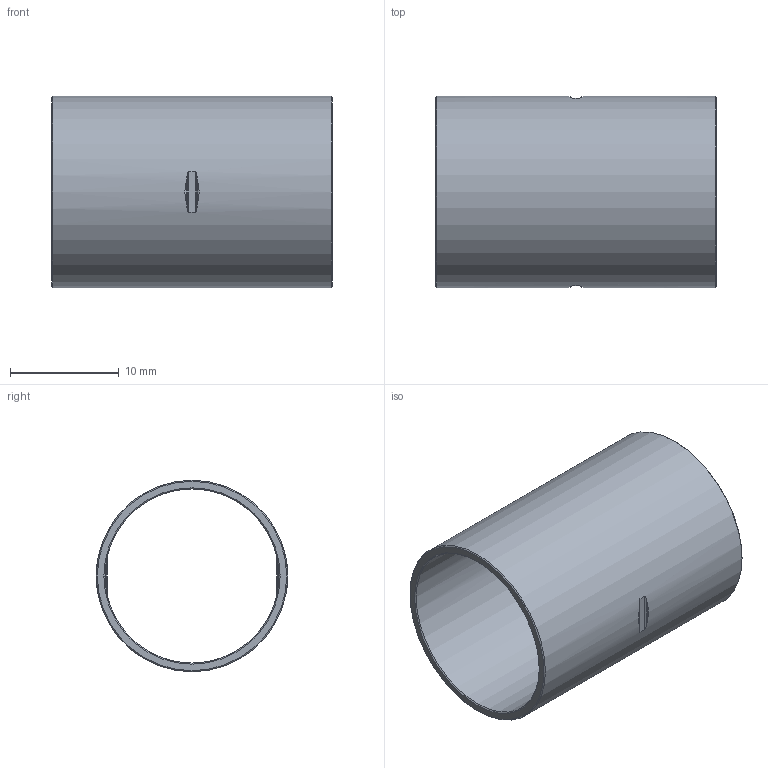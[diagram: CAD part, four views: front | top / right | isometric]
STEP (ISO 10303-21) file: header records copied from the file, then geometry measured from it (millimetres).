
FILE_DESCRIPTION((''),'2;1');
FILE_NAME('G:\SANHA-TERNAT\Technik\Management\Bouwmaten\z-maattekeningen 3D\imate 5000s\15270..._\1527016.stp','2009-10-19T09:09:43',('vdvijverd'),(''),'Autodesk Inventor 2009','Autodesk Inventor 2009','');
FILE_SCHEMA(('AUTOMOTIVE_DESIGN { 1 0 10303 214 1 1 1 1 }'));
Length unit declared in the file: millimetre
Products named in the file (1): 1527016
Bounding box: 25.75 x 17.6 x 17.6 mm (x, y, z)
Volume: 1086.5 mm3; surface area: 2791.4 mm2
Topology: 1 solids, 1 shells, 36 faces, 96 edges, 64 vertices
Faces by surface type: bspline 14, cylinder 10, plane 8, cone 4
Full cylindrical faces by diameter (mm): 16 x1, 17.6 x1
Entity records: 1382 total; most frequent: CARTESIAN_POINT 571, ORIENTED_EDGE 176, DIRECTION 126, EDGE_CURVE 88, VERTEX_POINT 64, EDGE_LOOP 48, AXIS2_PLACEMENT_3D 47, FACE_OUTER_BOUND 36
